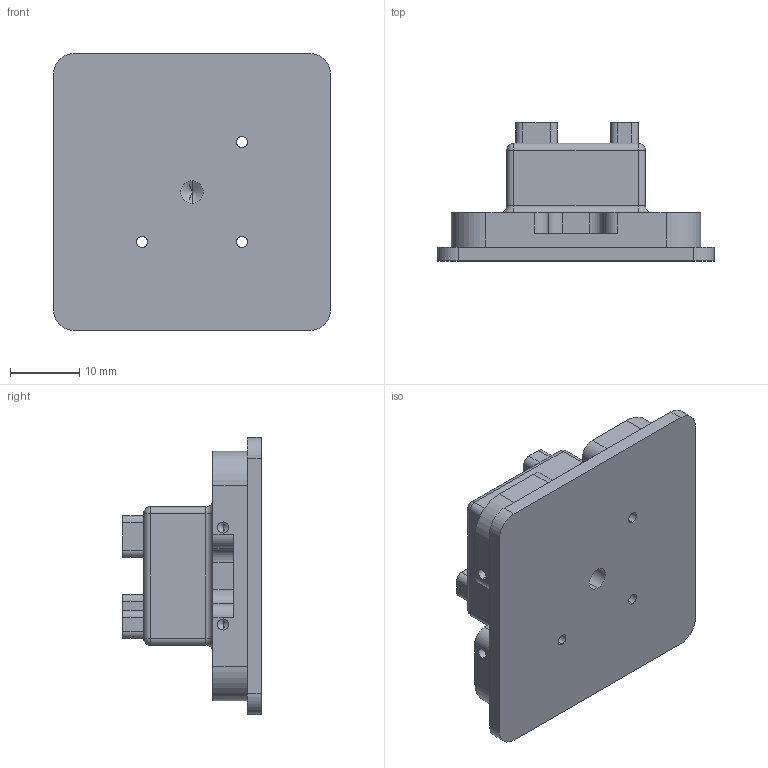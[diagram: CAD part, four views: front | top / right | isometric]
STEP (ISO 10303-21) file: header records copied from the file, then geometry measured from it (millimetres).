
FILE_DESCRIPTION (( 'STEP AP214' ), '1' );
FILE_NAME ('小型30 mm笼式立方底座.STEP', '2026-07-16T08:57:14', ( '' ), ( '' ), 'SwSTEP 2.0', 'SolidWorks 2024', '' );
FILE_SCHEMA (( 'AUTOMOTIVE_DESIGN' ));
Length unit declared in the file: millimetre
Products named in the file (1): 小型30 mm笼式立方底座
Bounding box: 40 x 20 x 40 mm (x, y, z)
Volume: 12867.6 mm3; surface area: 5637.4 mm2
Topology: 1 solids, 1 shells, 132 faces, 347 edges, 209 vertices
Faces by surface type: cylinder 64, plane 50, cone 10, sphere 4, torus 4
Entity records: 3992 total; most frequent: DIRECTION 731, CARTESIAN_POINT 675, ORIENTED_EDGE 666, EDGE_CURVE 333, AXIS2_PLACEMENT_3D 265, VERTEX_POINT 209, VECTOR 201, LINE 201
